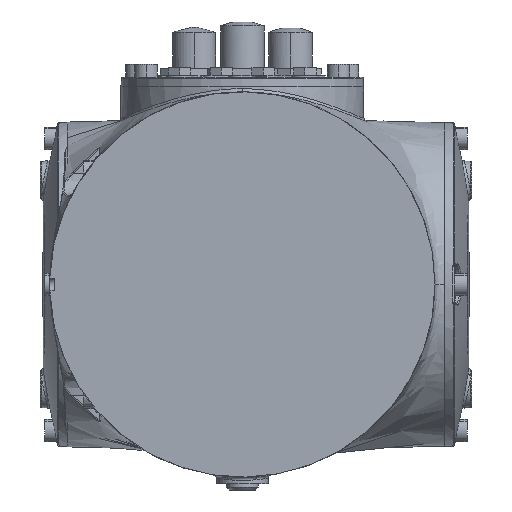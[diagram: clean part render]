
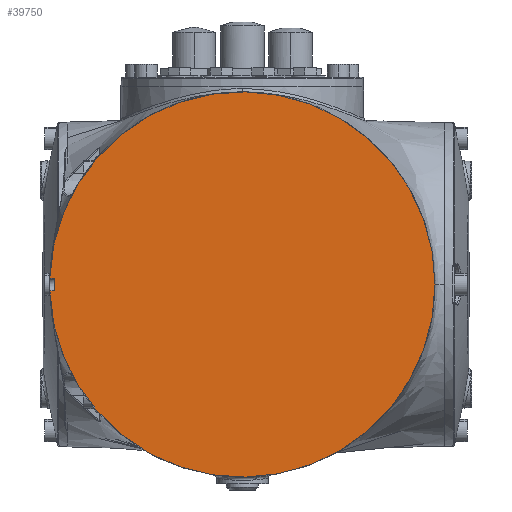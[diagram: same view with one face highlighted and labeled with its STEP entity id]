
A CAD part, left-side view. The second image highlights one B-rep face of the part: STEP entity #39750.
In plain terms, the highlighted planar face has unit normal (-1, 0, 0).
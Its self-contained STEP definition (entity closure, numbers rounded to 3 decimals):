
#826 = ORIENTED_EDGE ( 'NONE', *, *, #12233, .T. ) ;
#1082 = CARTESIAN_POINT ( 'NONE',  ( 179.5, 58.5, 1007. ) ) ;
#2271 = ORIENTED_EDGE ( 'NONE', *, *, #12727, .T. ) ;
#7866 = LINE ( 'NONE', #50602, #12482 ) ;
#8790 = DIRECTION ( 'NONE',  ( 0., -1., 0. ) ) ;
#10999 = CARTESIAN_POINT ( 'NONE',  ( 179.5, -47.5, 1009. ) ) ;
#12233 = EDGE_CURVE ( 'NONE', #28013, #18758, #12571, .T. ) ;
#12482 = VECTOR ( 'NONE', #38994, 1000. ) ;
#12571 = LINE ( 'NONE', #69331, #73260 ) ;
#12727 = EDGE_CURVE ( 'NONE', #18758, #80503, #7866, .T. ) ;
#14216 = DIRECTION ( 'NONE',  ( 1., 0., 0. ) ) ;
#16015 = CARTESIAN_POINT ( 'NONE',  ( 179.5, 59.967, 1007. ) ) ;
#17042 = DIRECTION ( 'NONE',  ( 0., 1., 0. ) ) ;
#18758 = VERTEX_POINT ( 'NONE', #72931 ) ;
#19511 = VERTEX_POINT ( 'NONE', #16015 ) ;
#19829 = CIRCLE ( 'NONE', #37137, 60. ) ;
#19998 = CARTESIAN_POINT ( 'NONE',  ( 179.5, -60., 1009. ) ) ;
#20358 = CARTESIAN_POINT ( 'NONE',  ( 179.5, 0., 1009. ) ) ;
#22999 = ORIENTED_EDGE ( 'NONE', *, *, #32494, .F. ) ;
#26576 = DIRECTION ( 'NONE',  ( 0., -1., 0. ) ) ;
#27377 = ORIENTED_EDGE ( 'NONE', *, *, #41530, .T. ) ;
#28013 = VERTEX_POINT ( 'NONE', #38645 ) ;
#28483 = AXIS2_PLACEMENT_3D ( 'NONE', #76737, #14216, #8790 ) ;
#32494 = EDGE_CURVE ( 'NONE', #44651, #19511, #19829, .T. ) ;
#36544 = LINE ( 'NONE', #48533, #75927 ) ;
#37137 = AXIS2_PLACEMENT_3D ( 'NONE', #20358, #65885, #26576 ) ;
#38645 = CARTESIAN_POINT ( 'NONE',  ( 179.5, 59.967, 1011. ) ) ;
#38994 = DIRECTION ( 'NONE',  ( 0., 0., -1. ) ) ;
#39750 = ADVANCED_FACE ( 'NONE', ( #49136 ), #67760, .T. ) ;
#41530 = EDGE_CURVE ( 'NONE', #80503, #19511, #36544, .T. ) ;
#43039 = ORIENTED_EDGE ( 'NONE', *, *, #78249, .F. ) ;
#44651 = VERTEX_POINT ( 'NONE', #19998 ) ;
#48533 = CARTESIAN_POINT ( 'NONE',  ( 179.5, -47.5, 1007. ) ) ;
#49136 = FACE_OUTER_BOUND ( 'NONE', #61542, .T. ) ;
#50602 = CARTESIAN_POINT ( 'NONE',  ( 179.5, 58.5, 1009. ) ) ;
#55694 = DIRECTION ( 'NONE',  ( 0., -1., 0. ) ) ;
#55761 = DIRECTION ( 'NONE',  ( -1., 0., 0. ) ) ;
#61542 = EDGE_LOOP ( 'NONE', ( #27377, #22999, #43039, #826, #2271 ) ) ;
#62392 = DIRECTION ( 'NONE',  ( 0., -1., 0. ) ) ;
#64166 = CIRCLE ( 'NONE', #28483, 60. ) ;
#65885 = DIRECTION ( 'NONE',  ( 1., 0., 0. ) ) ;
#67760 = PLANE ( 'NONE',  #78464 ) ;
#69331 = CARTESIAN_POINT ( 'NONE',  ( 179.5, -47.5, 1011. ) ) ;
#72931 = CARTESIAN_POINT ( 'NONE',  ( 179.5, 58.5, 1011. ) ) ;
#73260 = VECTOR ( 'NONE', #55694, 1000. ) ;
#75927 = VECTOR ( 'NONE', #17042, 1000. ) ;
#76737 = CARTESIAN_POINT ( 'NONE',  ( 179.5, 0., 1009. ) ) ;
#78249 = EDGE_CURVE ( 'NONE', #28013, #44651, #64166, .T. ) ;
#78464 = AXIS2_PLACEMENT_3D ( 'NONE', #10999, #55761, #62392 ) ;
#80503 = VERTEX_POINT ( 'NONE', #1082 ) ;
